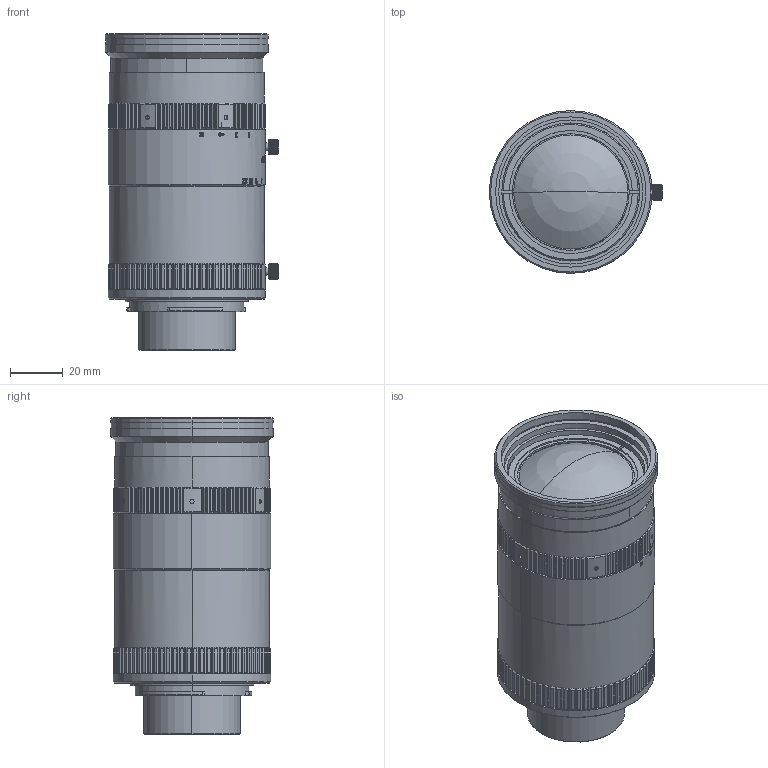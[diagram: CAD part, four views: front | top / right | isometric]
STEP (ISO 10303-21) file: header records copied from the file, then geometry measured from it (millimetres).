
FILE_DESCRIPTION((''),'2;1');
FILE_NAME('F3528-29M-V3_0','2024-05-17T17:30:52',('admin'),(''),'CREO PARAMETRIC BY PTC INC, 2020354','CREO PARAMETRIC BY PTC INC, 2020354','');
FILE_SCHEMA(('AUTOMOTIVE_DESIGN { 1 0 10303 214 1 1 1 1 }'));
Length unit declared in the file: millimetre
Products named in the file (1): F3528-29M-V3_0
Bounding box: 66 x 62 x 120.68 mm (x, y, z)
Volume: 287450.4 mm3; surface area: 31922.9 mm2
Topology: 1 solids, 2 shells, 2047 faces, 5651 edges, 3682 vertices
Faces by surface type: plane 811, bspline 464, cylinder 438, cone 303, extrusion 29, sphere 2
Entity records: 82488 total; most frequent: CARTESIAN_POINT 35384, ORIENTED_EDGE 11298, DIRECTION 7584, EDGE_CURVE 5649, VERTEX_POINT 3682, AXIS2_PLACEMENT_3D 2827, B_SPLINE_CURVE_WITH_KNOTS 2504, EDGE_LOOP 2137
